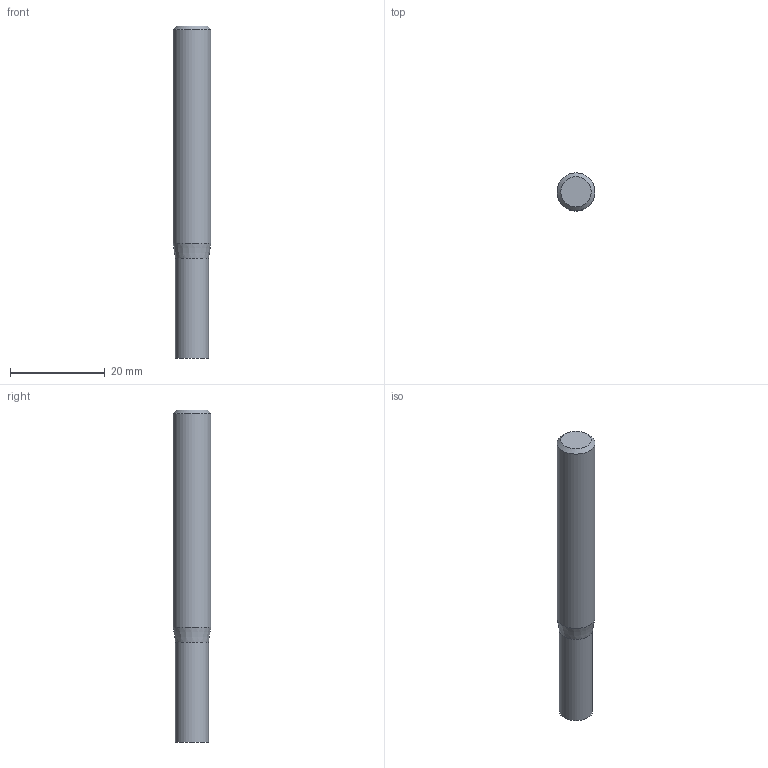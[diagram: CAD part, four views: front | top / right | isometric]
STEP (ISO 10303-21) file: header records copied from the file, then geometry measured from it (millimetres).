
FILE_DESCRIPTION((''),'2;1');
FILE_NAME('C:\Users\nsx150\AppData\Local\Temp\Mastercam 2021\W9Z147XDNF\TEMP.step','2021-04-08T14:42:36',(''),(''),'STEP Write','Mastercam 2021 ... CNC Software, Inc.','');
FILE_SCHEMA(('AUTOMOTIVE_DESIGN'));
Length unit declared in the file: millimetre
Products named in the file (1): None
Bounding box: 8 x 8 x 70 mm (x, y, z)
Volume: 3244.7 mm3; surface area: 1842.4 mm2
Topology: 2 solids, 2 shells, 8 faces, 10 edges, 6 vertices
Faces by surface type: plane 4, cylinder 2, cone 2
Full cylindrical faces by diameter (mm): 7 x1, 8 x1
Entity records: 190 total; most frequent: DIRECTION 32, CARTESIAN_POINT 22, AXIS2_PLACEMENT_3D 16, ORIENTED_EDGE 12, EDGE_LOOP 12, STYLED_ITEM 11, ADVANCED_FACE 8, VERTEX_POINT 6
